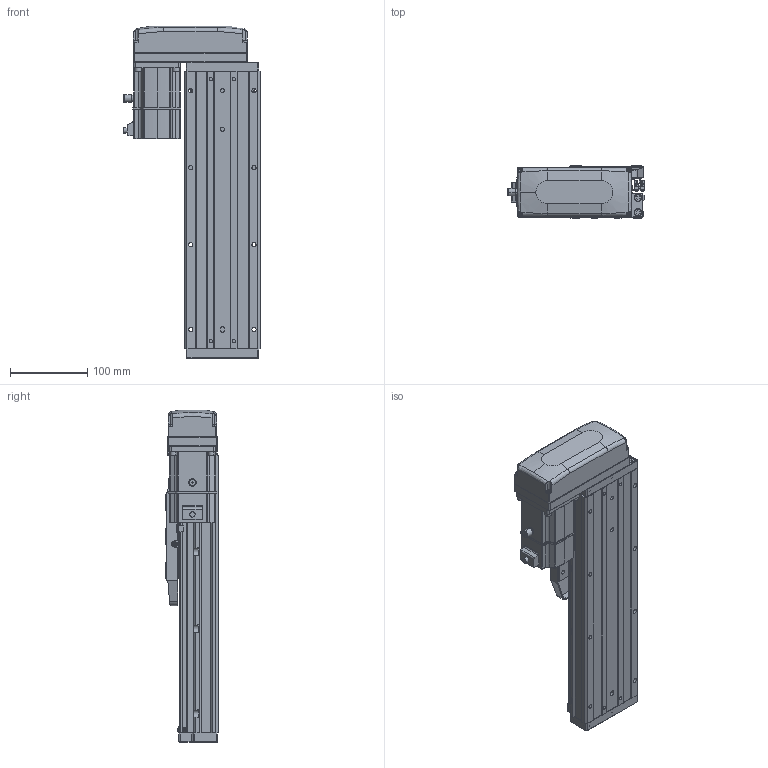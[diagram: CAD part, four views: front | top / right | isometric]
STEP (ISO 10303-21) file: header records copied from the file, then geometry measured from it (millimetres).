
FILE_DESCRIPTION (( 'STEP AP203' ), '1' );
FILE_NAME ('CTHA100-150-BL-M20-C4L.step', '2022-07-06T09:07:46', ( '微软用户' ), ( '微软中国' ), 'SwSTEP 2.0', 'SolidWorks 2020', '' );
FILE_SCHEMA (( 'CONFIG_CONTROL_DESIGN' ));
Length unit declared in the file: millimetre
Products named in the file (19): GB¨uT 70.2-M3¡Á5_M3¡Á6; CTHA60-016; CTHA86-033; EE_SX911P_R; _X2_4E0983F1_X0_200W_1; CTHA100-150-BL-M20-C4L; CTHA60-017; CTHA100-002; CTHA60-021; CTHA100-031; KTHA100-001_360; GBT77-2000 M3×3; CTHA86-030; KTHA100-004; GBT 70.1-M3℅6; GBT 70.3-M3℅6; KTHA100-005; GBT70.1 M5℅16; CTHA86-015-1_CTHA86-015-2
Assembly tree (64 placements, depth 2):
  CTHA100-150-BL-M20-C4L
    KTHA100-001_360
    KTHA100-004
    KTHA100-005
    GB¨uT 70.2-M3¡Á5_M3¡Á6  x10
    EE_SX911P_R  x3
    CTHA60-017  x3
    CTHA60-021  x2
    GBT77-2000 M3×3  x6
    GBT 70.1-M3℅6  x10
    GBT70.1 M5℅16  x14
    CTHA60-016  x2
    _X2_4E0983F1_X0_200W_1
    CTHA100-002
    CTHA100-031
    CTHA86-030  x2
    GBT 70.3-M3℅6  x4
    CTHA86-015-1_CTHA86-015-2
    CTHA86-033
Bounding box: 178.52 x 68 x 431 mm (x, y, z)
Volume: 2249299.8 mm3; surface area: 406971.5 mm2
Topology: 66 solids, 66 shells, 2589 faces, 6191 edges, 3832 vertices
Faces by surface type: plane 1344, cylinder 677, cone 345, torus 124, bspline 75, sphere 24
Entity records: 43408 total; most frequent: CARTESIAN_POINT 8587, DIRECTION 6654, ORIENTED_EDGE 6498, EDGE_CURVE 3249, AXIS2_PLACEMENT_3D 2271, VECTOR 2112, LINE 2112, VERTEX_POINT 2052
